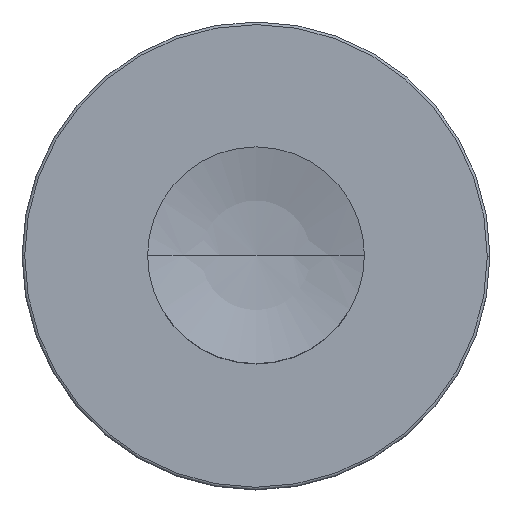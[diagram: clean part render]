
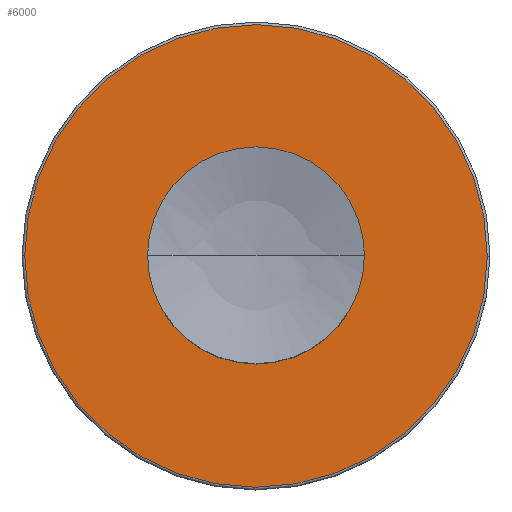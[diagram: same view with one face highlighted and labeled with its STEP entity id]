
A CAD part, top view. The second image highlights one B-rep face of the part: STEP entity #6000.
In plain terms, the highlighted planar face has unit normal (0, 0, 1).
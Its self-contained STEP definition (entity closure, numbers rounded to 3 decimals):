
#1074=CARTESIAN_POINT('',(0.,1000.,-260.));
#1075=DIRECTION('',(0.,0.,1.));
#1076=DIRECTION('',(-1.,0.,0.));
#1077=AXIS2_PLACEMENT_3D('',#1074,#1075,#1076);
#1092=CARTESIAN_POINT('',(0.,1000.,-260.));
#1093=DIRECTION('',(0.,0.,-1.));
#1094=DIRECTION('',(1.,-0.001,0.));
#1095=AXIS2_PLACEMENT_3D('',#1092,#1093,#1094);
#1097=CARTESIAN_POINT('',(0.,1000.,-260.));
#1098=DIRECTION('',(0.,0.,-1.));
#1099=DIRECTION('',(-1.,0.001,0.));
#1100=AXIS2_PLACEMENT_3D('',#1097,#1098,#1099);
#1158=CARTESIAN_POINT('',(0.,1000.,-260.));
#1159=DIRECTION('',(0.,0.,1.));
#1160=DIRECTION('',(1.,0.,0.));
#1161=AXIS2_PLACEMENT_3D('',#1158,#1159,#1160);
#4980=CARTESIAN_POINT('',(43.75,999.94,-260.));
#4981=CARTESIAN_POINT('',(-43.75,1000.06,-260.));
#4982=VERTEX_POINT('',#4980);
#4983=VERTEX_POINT('',#4981);
#4992=CARTESIAN_POINT('',(20.35,1000.,-260.));
#4993=CARTESIAN_POINT('',(-20.35,1000.,-260.));
#4994=VERTEX_POINT('',#4992);
#4995=VERTEX_POINT('',#4993);
#5984=CARTESIAN_POINT('',(0.,1000.,-260.));
#5985=DIRECTION('',(0.,0.,1.));
#5986=DIRECTION('',(-1.,0.001,0.));
#5987=AXIS2_PLACEMENT_3D('',#5984,#5985,#5986);
#5988=PLANE('',#5987);
#5990=ORIENTED_EDGE('',*,*,#5989,.T.);
#5992=ORIENTED_EDGE('',*,*,#5991,.T.);
#5993=EDGE_LOOP('',(#5990,#5992));
#5994=FACE_OUTER_BOUND('',#5993,.F.);
#5996=ORIENTED_EDGE('',*,*,#5995,.T.);
#5997=ORIENTED_EDGE('',*,*,#5974,.T.);
#5998=EDGE_LOOP('',(#5996,#5997));
#5999=FACE_BOUND('',#5998,.F.);
#6000=ADVANCED_FACE('',(#5994,#5999),#5988,.T.);
#1078=CIRCLE('',#1077,20.35);
#1096=CIRCLE('',#1095,43.75);
#1101=CIRCLE('',#1100,43.75);
#1162=CIRCLE('',#1161,20.35);
#5974=EDGE_CURVE('',#4995,#4994,#1078,.T.);
#5989=EDGE_CURVE('',#4982,#4983,#1096,.T.);
#5991=EDGE_CURVE('',#4983,#4982,#1101,.T.);
#5995=EDGE_CURVE('',#4994,#4995,#1162,.T.);
